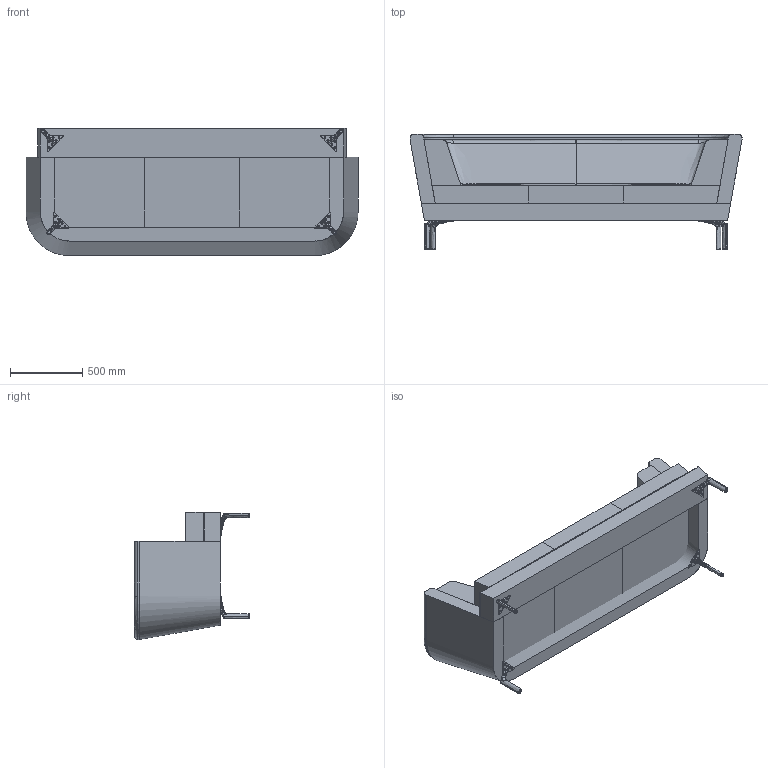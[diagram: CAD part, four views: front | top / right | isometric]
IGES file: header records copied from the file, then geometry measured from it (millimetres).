
Start section: SolidWorks IGES file using analytic representation for surfaces
Global section: file name: P:\3D CAD BLOCKS\ENTENTE\ENT5L - ENTENTE 3S SOFA LOW BACK\ENT5L - ENTENTE 3S SOFA LOW BACK.IGS; native system: SolidWorks 2012; preprocessor: SolidWorks 2012; author: adam; date: 140710.120203; units: millimetre
Bounding box: 2300 x 797.5 x 880 mm (x, y, z)
Surface area: 12541944.7 mm2 (no closed solid volume)
Topology: 0 solids, 0 shells, 590 faces, 7388 edges, 7384 vertices
Faces by surface type: bspline 340, revolution 250
